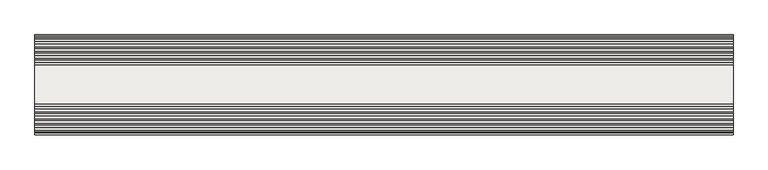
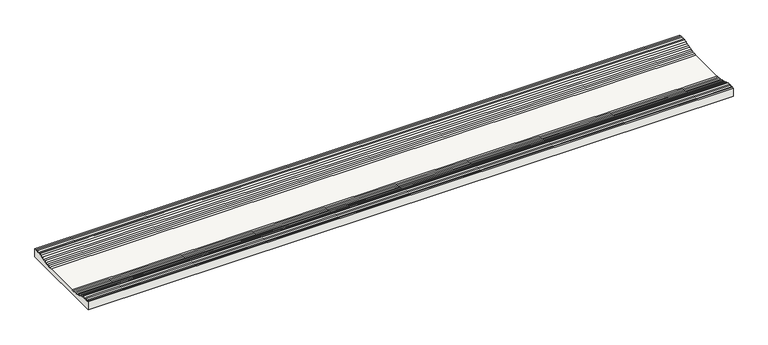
"""IFC4 building model written with IfcOpenShell, lengths in millimetres: slab geometry, ROSA GRES_204 : Pieza 204_Indugres_Indubeige_Tecno."""

import ifcopenshell
import ifcopenshell.guid

model = None  # the IFC model being written
_history = None  # IfcOwnerHistory: only IFC2X3 demands one
_inside = {}  # id of a spatial element -> (the spatial element, [elements in it])
_under = {}  # id of a project, library or spatial element -> (it, [spatial elements below it])
_declared = {}  # id of a project -> (the project, [libraries it declares])
_typed = {}  # id of a type object -> (the type object, [elements of that type])
_made_of = {}  # id of a material, layer set ... -> (it, [elements and type objects made of it])


def new_model(schema):
    """Start an empty IFC model of exactly this schema.

    Asked for "IFC4X3", IfcOpenShell would pick the latest addendum, in which some entities
    have other attributes; the version numbers below select the first issue.
    IFC2X3 requires an IfcOwnerHistory on every rooted entity: one is made here for all.
    """
    global model, _history
    if schema == "IFC4X3":
        model = ifcopenshell.file(schema_version=(4, 3, 0, 0))
    else:
        model = ifcopenshell.file(schema=schema)
    _inside.clear()
    _under.clear()
    _declared.clear()
    _typed.clear()
    _made_of.clear()
    _history = None
    if model.schema == "IFC2X3":
        org = make("IfcOrganization", Name="unknown")
        user = make(
            "IfcPersonAndOrganization",
            ThePerson=make("IfcPerson", FamilyName="unknown"),
            TheOrganization=org,
        )
        app = make(
            "IfcApplication",
            ApplicationDeveloper=org,
            Version="unknown",
            ApplicationFullName="unknown",
            ApplicationIdentifier="unknown",
        )
        _history = make(
            "IfcOwnerHistory",
            OwningUser=user,
            OwningApplication=app,
            ChangeAction="ADDED",
            CreationDate=0,
        )
    return model


def make(cls, **values):
    """One entity of the class cls with the attributes given. An attribute that is None is left unset."""
    return model.create_entity(
        cls, **{name: value for name, value in values.items() if value is not None}
    )


def rooted(cls, **values):
    """An entity with a GlobalId (a new one), such as an element, a storey or a relation."""
    return make(cls, GlobalId=ifcopenshell.guid.new(), OwnerHistory=_history, **values)


def si_unit(unit_type, name, prefix=None):
    """IfcSIUnit, for example si_unit("LENGTHUNIT", "METRE", prefix="MILLI")."""
    return make("IfcSIUnit", UnitType=unit_type, Prefix=prefix, Name=name)


def assignment(units):
    """IfcUnitAssignment: the units of a project."""
    return None if units is None else make("IfcUnitAssignment", Units=units)


def point(xyz):
    """IfcCartesianPoint."""
    return None if xyz is None else make("IfcCartesianPoint", Coordinates=xyz)


def direction(xyz):
    """IfcDirection."""
    return None if xyz is None else make("IfcDirection", DirectionRatios=xyz)


def frame(location, z_axis=None, x_axis=None):
    """IfcAxis2Placement3D, a coordinate frame: its origin and axes. An axis left out is left unset."""
    return make(
        "IfcAxis2Placement3D",
        Location=point(location),
        Axis=direction(z_axis),
        RefDirection=direction(x_axis),
    )


def frame_2d(location, x_axis=None):
    """IfcAxis2Placement2D, a coordinate frame in the plane: its origin and x axis."""
    return make(
        "IfcAxis2Placement2D", Location=point(location), RefDirection=direction(x_axis)
    )


def origin():
    """The frame at (0, 0, 0) with its axes left unset."""
    return frame((0.0, 0.0, 0.0))


def place(relative_to, where):
    """IfcLocalPlacement: puts the frame where relative to a parent placement (None: the world)."""
    return make(
        "IfcLocalPlacement", PlacementRelTo=relative_to, RelativePlacement=where
    )


def context(
    kind, dimensions, precision=None, world=None, true_north=None, identifier=None
):
    """IfcGeometricRepresentationContext, for example the 3D "Model" context."""
    return make(
        "IfcGeometricRepresentationContext",
        ContextIdentifier=identifier,
        ContextType=kind,
        CoordinateSpaceDimension=dimensions,
        Precision=precision,
        WorldCoordinateSystem=world,
        TrueNorth=true_north,
    )


def project(units=None, contexts=None):
    """IfcProject with its units and contexts."""
    return rooted(
        "IfcProject",
        Name="project",
        RepresentationContexts=contexts,
        UnitsInContext=assignment(units),
    )


def spatial(cls, under=None, at=None, **own):
    """A site, building, storey or space (cls), placed at a placement, below another one or the project."""
    s = rooted(cls, ObjectPlacement=at, **own)
    if under is not None:
        _under.setdefault(under.id(), (under, []))[1].append(s)
    return s


def polyline(points):
    """IfcPolyline through the points."""
    return make("IfcPolyline", Points=[point(p) for p in points])


def circle_curve(where, radius):
    """IfcCircle in the frame where."""
    return make("IfcCircle", Position=where, Radius=radius)


def trimmed(basis, trim1, trim2, sense, master):
    """IfcTrimmedCurve: the piece of a basis curve between two trims."""
    return make(
        "IfcTrimmedCurve",
        BasisCurve=basis,
        Trim1=trim1,
        Trim2=trim2,
        SenseAgreement=sense,
        MasterRepresentation=master,
    )


def segment(curve, same_sense, transition):
    """IfcCompositeCurveSegment."""
    return make(
        "IfcCompositeCurveSegment",
        Transition=transition,
        SameSense=same_sense,
        ParentCurve=curve,
    )


def composite_curve(segments, self_intersect=None):
    """IfcCompositeCurve: segments joined end to end."""
    return make("IfcCompositeCurve", Segments=segments, SelfIntersect=self_intersect)


def outline(outer, holes=None, kind="AREA"):
    """IfcArbitraryClosedProfileDef: a profile drawn as a closed curve; with holes, ...WithVoids."""
    if holes is None:
        return make("IfcArbitraryClosedProfileDef", ProfileType=kind, OuterCurve=outer)
    return make(
        "IfcArbitraryProfileDefWithVoids",
        ProfileType=kind,
        OuterCurve=outer,
        InnerCurves=holes,
    )


def extrude(swept, where, along, depth):
    """IfcExtrudedAreaSolid: the profile swept, set in the frame where, extruded along a direction by depth."""
    return make(
        "IfcExtrudedAreaSolid",
        SweptArea=swept,
        Position=where,
        ExtrudedDirection=direction(along),
        Depth=depth,
    )


def shape(context_of_items, identifier, shape_type, items):
    """IfcShapeRepresentation: the items that make up one representation, for example the "Body"."""
    return make(
        "IfcShapeRepresentation",
        ContextOfItems=context_of_items,
        RepresentationIdentifier=identifier,
        RepresentationType=shape_type,
        Items=items,
    )


def source(mapping_origin, context_of_items, identifier, shape_type, items):
    """IfcRepresentationMap: a shape defined once, which mapped items show again and again."""
    return make(
        "IfcRepresentationMap",
        MappingOrigin=mapping_origin,
        MappedRepresentation=shape(context_of_items, identifier, shape_type, items),
    )


def transform(
    local_origin,
    x_axis=None,
    y_axis=None,
    z_axis=None,
    scale=None,
    scale2=None,
    scale3=None,
    uniform=True,
):
    """IfcCartesianTransformationOperator3D, or its non-uniform kind. x_axis, y_axis, z_axis: its Axis1, 2, 3."""
    if uniform:
        return make(
            "IfcCartesianTransformationOperator3D",
            Axis1=direction(x_axis),
            Axis2=direction(y_axis),
            LocalOrigin=point(local_origin),
            Scale=scale,
            Axis3=direction(z_axis),
        )
    return make(
        "IfcCartesianTransformationOperator3DnonUniform",
        Axis1=direction(x_axis),
        Axis2=direction(y_axis),
        LocalOrigin=point(local_origin),
        Scale=scale,
        Axis3=direction(z_axis),
        Scale2=scale2,
        Scale3=scale3,
    )


def mapped(mapping_source, mapping_target):
    """IfcMappedItem: shows the shape of a source again, moved by a transform."""
    return make(
        "IfcMappedItem", MappingSource=mapping_source, MappingTarget=mapping_target
    )


def made_of(thing, what):
    """Note that an element or type object is made of a material, layer set ...; save() writes the relation."""
    if what is not None:
        _made_of.setdefault(what.id(), (what, []))[1].append(thing)
    return thing


def element(
    cls,
    number,
    at=None,
    inside=None,
    cuts=None,
    type_object=None,
    material=None,
    context=None,
    identifier="Body",
    shape_type=None,
    held_by="IfcProductDefinitionShape",
    body=None,
    shapes=None,
    **own,
):
    """One element of the class cls, such as IfcWall. Its Tag is "e" and its number.

    at: its placement. inside: the storey or other place that contains it. cuts: it is an
    opening in that element (IfcRelVoidsElement). A single representation is given by context,
    identifier, shape_type and body (its items); several are given by shapes. held_by: the class
    of the entity that holds the representations. save() writes the other relations.
    """
    e = rooted(cls, Tag="e%d" % number, ObjectPlacement=at, **own)
    if body is not None:
        shapes = [shape(context, identifier, shape_type, body)]
    if shapes is not None:
        e.Representation = make(held_by, Representations=shapes)
    if inside is not None:
        _inside.setdefault(inside.id(), (inside, []))[1].append(e)
    if cuts is not None:
        rooted(
            "IfcRelVoidsElement", RelatingBuildingElement=cuts, RelatedOpeningElement=e
        )
    if type_object is not None:
        _typed.setdefault(type_object.id(), (type_object, []))[1].append(e)
    return made_of(e, material)


def aggregate(whole, parts):
    """IfcRelAggregates: a whole, such as a stair, and the parts it consists of."""
    return rooted("IfcRelAggregates", RelatingObject=whole, RelatedObjects=parts)


def save(model, path):
    """Write the relations noted so far, then the file.

    IfcRelAggregates (storeys below a building ...), IfcRelContainedInSpatialStructure (elements
    in a storey), IfcRelDefinesByType, IfcRelAssociatesMaterial and IfcRelDeclares: one each for
    every whole, place, type object, material and project.
    """
    for whole, parts in _under.values():
        aggregate(whole, parts)
    for where, things in _inside.values():
        rooted(
            "IfcRelContainedInSpatialStructure",
            RelatedElements=things,
            RelatingStructure=where,
        )
    for kind, things in _typed.values():
        rooted("IfcRelDefinesByType", RelatedObjects=things, RelatingType=kind)
    for what, things in _made_of.values():
        rooted("IfcRelAssociatesMaterial", RelatedObjects=things, RelatingMaterial=what)
    for by, libraries in _declared.values():
        rooted("IfcRelDeclares", RelatingContext=by, RelatedDefinitions=libraries)
    model.write(path)


def slab_26251be1(model_context):
    return source(origin(), model_context, "Body", "SweptSolid", [
        extrude(outline(composite_curve([segment(polyline([(0.0, 0.0), (-250.0, 0.0), (-250.0, 22.8672484), (-246.5165615, 22.8672484)]), True, "CONTINUOUS"), segment(trimmed(circle_curve(frame_2d((-246.5165615, 24.9459193)), 2.078671), [point((-246.5165615, 22.8672484))], [point((-244.6066559, 24.1254722))], True, "CARTESIAN"), True, "CONTINUOUS"), segment(trimmed(circle_curve(frame_2d((-241.5227559, 27.2443435)), 4.3860914), [point((-244.6066559, 24.1254722))], [point((-238.5231465, 24.0443215))], True, "CARTESIAN"), True, "CONTINUOUS"), segment(trimmed(circle_curve(frame_2d((-235.5165615, 27.2619892)), 4.4037415), [point((-238.5231465, 24.0443215))], [point((-232.5161808, 24.0385354))], True, "CARTESIAN"), True, "CONTINUOUS"), segment(trimmed(circle_curve(frame_2d((-229.5227559, 27.2443435)), 4.3860914), [point((-232.5161808, 24.0385354))], [point((-226.4518445, 24.1126825))], True, "CARTESIAN"), True, "CONTINUOUS"), segment(trimmed(circle_curve(frame_2d((-222.4126485, 25.8222711)), 4.3860914), [point((-226.4518445, 24.1126825))], [point((-220.9070916, 21.702672))], True, "CARTESIAN"), True, "CONTINUOUS"), segment(trimmed(circle_curve(frame_2d((-217.0089888, 23.7132919)), 4.3860914), [point((-220.9070916, 21.702672))], [point((-215.3259087, 19.6629784))], True, "CARTESIAN"), True, "CONTINUOUS"), segment(trimmed(circle_curve(frame_2d((-211.4655295, 21.7451095)), 4.3860914), [point((-215.3259087, 19.6629784))], [point((-209.593873, 17.7784107))], True, "CARTESIAN"), True, "CONTINUOUS"), segment(trimmed(circle_curve(frame_2d((-205.8934032, 20.1330489)), 4.3860914), [point((-209.593873, 17.7784107))], [point((-203.853023, 16.2504407))], True, "CARTESIAN"), True, "CONTINUOUS"), segment(trimmed(circle_curve(frame_2d((-200.2085503, 18.690854)), 4.3860914), [point((-203.853023, 16.2504407))], [point((-197.9613895, 14.9241491))], True, "CARTESIAN"), True, "CONTINUOUS"), segment(trimmed(circle_curve(frame_2d((-194.4503067, 17.5528551)), 4.3860914), [point((-197.9613895, 14.9241491))], [point((-192.1240285, 13.8344915))], True, "CARTESIAN"), True, "CONTINUOUS"), segment(trimmed(circle_curve(frame_2d((-188.6900903, 16.563203)), 4.3860914), [point((-192.1240285, 13.8344915))], [point((-186.1425933, 12.9927609))], True, "CARTESIAN"), True, "CONTINUOUS"), segment(trimmed(circle_curve(frame_2d((-182.8453461, 15.8851576)), 4.3860914), [point((-186.1425933, 12.9927609))], [point((-180.2419212, 12.3552884))], True, "CARTESIAN"), True, "CONTINUOUS"), segment(trimmed(circle_curve(frame_2d((-177.0588098, 15.372837)), 4.3860914), [point((-180.2419212, 12.3552884))], [point((-174.3413989, 11.9299493))], True, "CARTESIAN"), True, "CONTINUOUS"), segment(polyline([(-174.3413989, 11.9299493), (-75.6586011, 11.9299493)]), True, "CONTINUOUS"), segment(trimmed(circle_curve(frame_2d((-72.9411902, 15.372837)), 4.3860914), [point((-75.6586011, 11.9299493))], [point((-69.7580788, 12.3552884))], True, "CARTESIAN"), True, "CONTINUOUS"), segment(trimmed(circle_curve(frame_2d((-67.1546539, 15.8851576)), 4.3860914), [point((-69.7580788, 12.3552884))], [point((-63.8574067, 12.9927609))], True, "CARTESIAN"), True, "CONTINUOUS"), segment(trimmed(circle_curve(frame_2d((-61.3099097, 16.563203)), 4.3860914), [point((-63.8574067, 12.9927609))], [point((-57.8759715, 13.8344915))], True, "CARTESIAN"), True, "CONTINUOUS"), segment(trimmed(circle_curve(frame_2d((-55.5496933, 17.5528551)), 4.3860914), [point((-57.8759715, 13.8344915))], [point((-52.0386105, 14.9241491))], True, "CARTESIAN"), True, "CONTINUOUS"), segment(trimmed(circle_curve(frame_2d((-49.7914497, 18.690854)), 4.3860914), [point((-52.0386105, 14.9241491))], [point((-46.146977, 16.2504407))], True, "CARTESIAN"), True, "CONTINUOUS"), segment(trimmed(circle_curve(frame_2d((-44.1065968, 20.1330489)), 4.3860914), [point((-46.146977, 16.2504407))], [point((-40.406127, 17.7784107))], True, "CARTESIAN"), True, "CONTINUOUS"), segment(trimmed(circle_curve(frame_2d((-38.5344705, 21.7451095)), 4.3860914), [point((-40.406127, 17.7784107))], [point((-34.6740913, 19.6629784))], True, "CARTESIAN"), True, "CONTINUOUS"), segment(trimmed(circle_curve(frame_2d((-32.9910112, 23.7132919)), 4.3860914), [point((-34.6740913, 19.6629784))], [point((-29.0929084, 21.702672))], True, "CARTESIAN"), True, "CONTINUOUS"), segment(trimmed(circle_curve(frame_2d((-27.5873515, 25.8222711)), 4.3860914), [point((-29.0929084, 21.702672))], [point((-23.5481555, 24.1126825))], True, "CARTESIAN"), True, "CONTINUOUS"), segment(trimmed(circle_curve(frame_2d((-20.4772441, 27.2443435)), 4.3860914), [point((-23.5481555, 24.1126825))], [point((-17.4838192, 24.0385354))], True, "CARTESIAN"), True, "CONTINUOUS"), segment(trimmed(circle_curve(frame_2d((-14.4834385, 27.2619892)), 4.4037415), [point((-17.4838192, 24.0385354))], [point((-11.4768535, 24.0443215))], True, "CARTESIAN"), True, "CONTINUOUS"), segment(trimmed(circle_curve(frame_2d((-8.4772441, 27.2443435)), 4.3860914), [point((-11.4768535, 24.0443215))], [point((-5.3933441, 24.1254722))], True, "CARTESIAN"), True, "CONTINUOUS"), segment(trimmed(circle_curve(frame_2d((-3.4834385, 24.9459193)), 2.078671), [point((-5.3933441, 24.1254722))], [point((-3.4834385, 22.8672484))], True, "CARTESIAN"), True, "CONTINUOUS"), segment(polyline([(-3.4834385, 22.8672484), (0.0, 22.8672484), (0.0, 0.0)]), True, "CONTINUOUS")], self_intersect=False)), frame((0.0, 0.0, 0.0), z_axis=(1.0, 0.0, 0.0), x_axis=(0.0, 1.0, 0.0)), (0.0, 0.0, 1.0), 1750.0),
    ])


if __name__ == "__main__":
    model = new_model("IFC4")
    model_context = context("Model", 3, world=origin())
    ifc_project = project(units=[si_unit("LENGTHUNIT", "METRE", prefix="MILLI")], contexts=[model_context])
    site = spatial("IfcSite", under=ifc_project)
    building = spatial("IfcBuilding", under=site)
    placement = place(None, origin())
    slab_shape = slab_26251be1(model_context)
    element("IfcSlab", 1, ObjectType="ROSA GRES_204 : Pieza 204_Indugres_Indubeige_Tecno", at=placement, inside=building, context=model_context, shape_type="MappedRepresentation", body=[
        mapped(slab_shape, transform((0.0, 0.0, 0.0), x_axis=(1.0, 0.0, 0.0), y_axis=(0.0, 1.0, 0.0), z_axis=(0.0, 0.0, 1.0))),
    ])
    save(model, "model.ifc")
